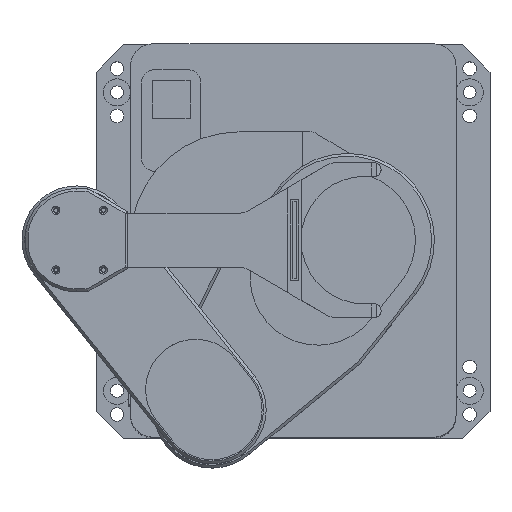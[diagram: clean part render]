
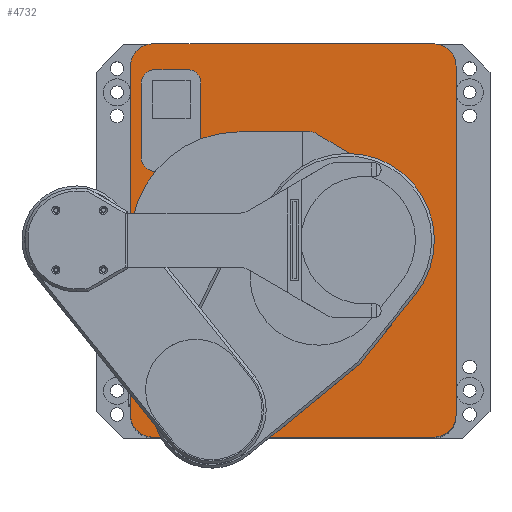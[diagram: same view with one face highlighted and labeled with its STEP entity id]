
A CAD part, top view. The second image highlights one B-rep face of the part: STEP entity #4732.
In plain terms, the highlighted planar face has unit normal (0, 0, 1).
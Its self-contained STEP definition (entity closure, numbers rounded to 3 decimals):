
#94=FACE_BOUND('',#853,.T.);
#95=FACE_BOUND('',#854,.T.);
#195=CIRCLE('',#4964,16.49);
#197=CIRCLE('',#4968,16.49);
#199=CIRCLE('',#4972,16.49);
#201=CIRCLE('',#4976,16.49);
#214=CIRCLE('',#5035,10.);
#216=CIRCLE('',#5039,10.);
#218=CIRCLE('',#5043,10.);
#220=CIRCLE('',#5047,10.);
#221=CIRCLE('',#5051,74.75);
#558=FACE_OUTER_BOUND('',#852,.T.);
#852=EDGE_LOOP('',(#3476,#3477,#3478,#3479,#3480,#3481,#3482,#3483));
#853=EDGE_LOOP('',(#3484));
#854=EDGE_LOOP('',(#3485,#3486,#3487,#3488,#3489,#3490,#3491,#3492));
#1175=LINE('',#6937,#1620);
#1180=LINE('',#6951,#1625);
#1184=LINE('',#6963,#1629);
#1188=LINE('',#6975,#1633);
#1303=LINE('',#7242,#1748);
#1307=LINE('',#7254,#1752);
#1311=LINE('',#7266,#1756);
#1315=LINE('',#7276,#1760);
#1620=VECTOR('',#5474,207.);
#1625=VECTOR('',#5487,256.98);
#1629=VECTOR('',#5499,207.);
#1633=VECTOR('',#5511,256.98);
#1748=VECTOR('',#5750,55.);
#1752=VECTOR('',#5762,24.);
#1756=VECTOR('',#5774,55.);
#1760=VECTOR('',#5786,24.);
#2065=VERTEX_POINT('',#6935);
#2066=VERTEX_POINT('',#6936);
#2069=VERTEX_POINT('',#6944);
#2071=VERTEX_POINT('',#6950);
#2073=VERTEX_POINT('',#6956);
#2075=VERTEX_POINT('',#6962);
#2077=VERTEX_POINT('',#6968);
#2079=VERTEX_POINT('',#6974);
#2166=VERTEX_POINT('',#7233);
#2167=VERTEX_POINT('',#7235);
#2169=VERTEX_POINT('',#7241);
#2171=VERTEX_POINT('',#7247);
#2173=VERTEX_POINT('',#7253);
#2175=VERTEX_POINT('',#7259);
#2177=VERTEX_POINT('',#7265);
#2179=VERTEX_POINT('',#7271);
#2180=VERTEX_POINT('',#7279);
#2521=EDGE_CURVE('',#2065,#2066,#1175,.T.);
#2525=EDGE_CURVE('',#2066,#2069,#195,.T.);
#2528=EDGE_CURVE('',#2069,#2071,#1180,.T.);
#2531=EDGE_CURVE('',#2071,#2073,#197,.T.);
#2534=EDGE_CURVE('',#2073,#2075,#1184,.T.);
#2537=EDGE_CURVE('',#2075,#2077,#199,.T.);
#2540=EDGE_CURVE('',#2077,#2079,#1188,.T.);
#2543=EDGE_CURVE('',#2079,#2065,#201,.T.);
#2666=EDGE_CURVE('',#2167,#2166,#214,.T.);
#2669=EDGE_CURVE('',#2169,#2167,#1303,.T.);
#2672=EDGE_CURVE('',#2171,#2169,#216,.T.);
#2675=EDGE_CURVE('',#2173,#2171,#1307,.T.);
#2678=EDGE_CURVE('',#2175,#2173,#218,.T.);
#2681=EDGE_CURVE('',#2177,#2175,#1311,.T.);
#2684=EDGE_CURVE('',#2179,#2177,#220,.T.);
#2687=EDGE_CURVE('',#2166,#2179,#1315,.T.);
#2688=EDGE_CURVE('',#2180,#2180,#221,.T.);
#3476=ORIENTED_EDGE('',*,*,#2521,.T.);
#3477=ORIENTED_EDGE('',*,*,#2525,.T.);
#3478=ORIENTED_EDGE('',*,*,#2528,.T.);
#3479=ORIENTED_EDGE('',*,*,#2531,.T.);
#3480=ORIENTED_EDGE('',*,*,#2534,.T.);
#3481=ORIENTED_EDGE('',*,*,#2537,.T.);
#3482=ORIENTED_EDGE('',*,*,#2540,.T.);
#3483=ORIENTED_EDGE('',*,*,#2543,.T.);
#3484=ORIENTED_EDGE('',*,*,#2688,.T.);
#3485=ORIENTED_EDGE('',*,*,#2666,.T.);
#3486=ORIENTED_EDGE('',*,*,#2687,.T.);
#3487=ORIENTED_EDGE('',*,*,#2684,.T.);
#3488=ORIENTED_EDGE('',*,*,#2681,.T.);
#3489=ORIENTED_EDGE('',*,*,#2678,.T.);
#3490=ORIENTED_EDGE('',*,*,#2675,.T.);
#3491=ORIENTED_EDGE('',*,*,#2672,.T.);
#3492=ORIENTED_EDGE('',*,*,#2669,.T.);
#4542=PLANE('',#5050);
#4732=ADVANCED_FACE('',(#558,#94,#95),#4542,.T.);
#4964=AXIS2_PLACEMENT_3D('',#6945,#5480,#5481);
#4968=AXIS2_PLACEMENT_3D('',#6957,#5492,#5493);
#4972=AXIS2_PLACEMENT_3D('',#6969,#5504,#5505);
#4976=AXIS2_PLACEMENT_3D('',#6980,#5516,#5517);
#5035=AXIS2_PLACEMENT_3D('',#7236,#5744,#5745);
#5039=AXIS2_PLACEMENT_3D('',#7248,#5756,#5757);
#5043=AXIS2_PLACEMENT_3D('',#7260,#5768,#5769);
#5047=AXIS2_PLACEMENT_3D('',#7272,#5780,#5781);
#5050=AXIS2_PLACEMENT_3D('',#7278,#5789,#5790);
#5051=AXIS2_PLACEMENT_3D('',#7280,#5791,#5792);
#5474=DIRECTION('',(-1.,0.,0.));
#5480=DIRECTION('center_axis',(0.,0.,1.));
#5481=DIRECTION('ref_axis',(0.,-1.,0.));
#5487=DIRECTION('',(0.,-1.,0.));
#5492=DIRECTION('center_axis',(0.,0.,1.));
#5493=DIRECTION('ref_axis',(1.,0.,0.));
#5499=DIRECTION('',(1.,0.,0.));
#5504=DIRECTION('center_axis',(0.,0.,1.));
#5505=DIRECTION('ref_axis',(0.,1.,0.));
#5511=DIRECTION('',(0.,1.,0.));
#5516=DIRECTION('center_axis',(0.,0.,1.));
#5517=DIRECTION('ref_axis',(-1.,0.,0.));
#5744=DIRECTION('center_axis',(0.,0.,-1.));
#5745=DIRECTION('ref_axis',(0.,-1.,0.));
#5750=DIRECTION('',(0.,1.,0.));
#5756=DIRECTION('center_axis',(0.,0.,-1.));
#5757=DIRECTION('ref_axis',(1.,0.,0.));
#5762=DIRECTION('',(-1.,0.,0.));
#5768=DIRECTION('center_axis',(0.,0.,-1.));
#5769=DIRECTION('ref_axis',(0.,1.,0.));
#5774=DIRECTION('',(0.,-1.,0.));
#5780=DIRECTION('center_axis',(0.,0.,-1.));
#5781=DIRECTION('ref_axis',(-1.,0.,0.));
#5786=DIRECTION('',(1.,0.,0.));
#5789=DIRECTION('center_axis',(0.,0.,1.));
#5790=DIRECTION('ref_axis',(1.,0.,0.));
#5791=DIRECTION('center_axis',(0.,0.,-1.));
#5792=DIRECTION('ref_axis',(-1.,0.,0.));
#6935=CARTESIAN_POINT('',(103.5,144.98,468.));
#6936=CARTESIAN_POINT('',(-103.5,144.98,468.));
#6937=CARTESIAN_POINT('',(-51.75,144.98,468.));
#6944=CARTESIAN_POINT('',(-119.99,128.49,468.));
#6945=CARTESIAN_POINT('Origin',(-103.5,128.49,468.));
#6950=CARTESIAN_POINT('',(-119.99,-128.49,468.));
#6951=CARTESIAN_POINT('',(-119.99,-64.245,468.));
#6956=CARTESIAN_POINT('',(-103.5,-144.98,468.));
#6957=CARTESIAN_POINT('Origin',(-103.5,-128.49,468.));
#6962=CARTESIAN_POINT('',(103.5,-144.98,468.));
#6963=CARTESIAN_POINT('',(51.75,-144.98,468.));
#6968=CARTESIAN_POINT('',(119.99,-128.49,468.));
#6969=CARTESIAN_POINT('Origin',(103.5,-128.49,468.));
#6974=CARTESIAN_POINT('',(119.99,128.49,468.));
#6975=CARTESIAN_POINT('',(119.99,64.245,468.));
#6980=CARTESIAN_POINT('Origin',(103.5,128.49,468.));
#7233=CARTESIAN_POINT('',(-102.05,126.05,468.));
#7235=CARTESIAN_POINT('',(-112.05,116.05,468.));
#7236=CARTESIAN_POINT('Origin',(-102.05,116.05,468.));
#7241=CARTESIAN_POINT('',(-112.05,61.05,468.));
#7242=CARTESIAN_POINT('',(-112.05,58.025,468.));
#7247=CARTESIAN_POINT('',(-102.05,51.05,468.));
#7248=CARTESIAN_POINT('Origin',(-102.05,61.05,468.));
#7253=CARTESIAN_POINT('',(-78.05,51.05,468.));
#7254=CARTESIAN_POINT('',(-51.025,51.05,468.));
#7259=CARTESIAN_POINT('',(-68.05,61.05,468.));
#7260=CARTESIAN_POINT('Origin',(-78.05,61.05,468.));
#7265=CARTESIAN_POINT('',(-68.05,116.05,468.));
#7266=CARTESIAN_POINT('',(-68.05,30.525,468.));
#7271=CARTESIAN_POINT('',(-78.05,126.05,468.));
#7272=CARTESIAN_POINT('Origin',(-78.05,116.05,468.));
#7276=CARTESIAN_POINT('',(-39.025,126.05,468.));
#7278=CARTESIAN_POINT('Origin',(0.,0.,
468.));
#7279=CARTESIAN_POINT('',(74.75,0.,468.));
#7280=CARTESIAN_POINT('Origin',(0.,0.,468.));
